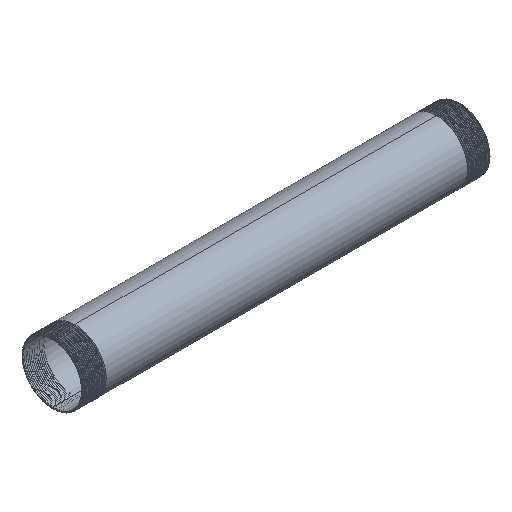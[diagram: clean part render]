
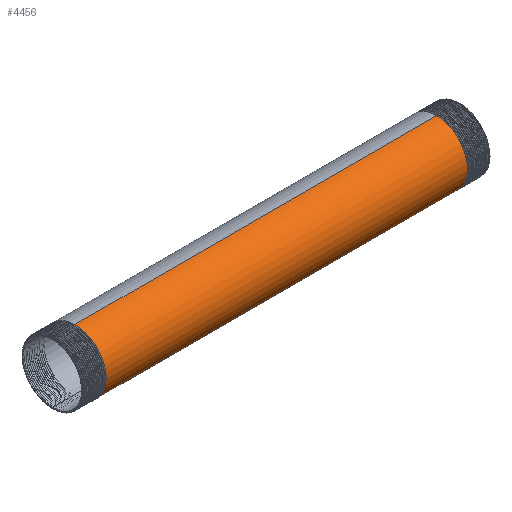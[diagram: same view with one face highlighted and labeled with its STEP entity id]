
A CAD part, isometric view. The second image highlights one B-rep face of the part: STEP entity #4456.
In plain terms, the highlighted cylindrical face has radius 38.05 mm (diameter 76.1 mm), a partial arc.
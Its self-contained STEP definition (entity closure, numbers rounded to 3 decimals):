
#279 = ORIENTED_EDGE ( 'NONE', *, *, #7416, .T. ) ;
#941 = CARTESIAN_POINT ( 'NONE',  ( 222.25, 0., 38.05 ) ) ;
#1050 = CARTESIAN_POINT ( 'NONE',  ( -221.25, 0., -38.05 ) ) ;
#1376 = CARTESIAN_POINT ( 'NONE',  ( -221.25, 0., -38.05 ) ) ;
#1490 = EDGE_LOOP ( 'NONE', ( #9318, #279, #11441, #2651 ) ) ;
#1692 = CARTESIAN_POINT ( 'NONE',  ( 221.45, -22.365, -30.783 ) ) ;
#2060 = CARTESIAN_POINT ( 'NONE',  ( -221.85, -36.188, 11.758 ) ) ;
#2557 = CARTESIAN_POINT ( 'NONE',  ( -149.494, 0., 38.05 ) ) ;
#2630 = CARTESIAN_POINT ( 'NONE',  ( 221.65, -36.188, -11.758 ) ) ;
#2651 = ORIENTED_EDGE ( 'NONE', *, *, #11901, .F. ) ;
#2988 = CARTESIAN_POINT ( 'NONE',  ( -222.25, 0., 38.05 ) ) ;
#3273 = CARTESIAN_POINT ( 'NONE',  ( -221.45, -22.365, -30.783 ) ) ;
#3338 = VECTOR ( 'NONE', #12844, 1000. ) ;
#3483 = LINE ( 'NONE', #2557, #9997 ) ;
#4059 = CARTESIAN_POINT ( 'NONE',  ( -221.55, -32.367, -23.516 ) ) ;
#4456 = ADVANCED_FACE ( 'NONE', ( #12021 ), #9926, .T. ) ;
#4910 = CARTESIAN_POINT ( 'NONE',  ( 221.75, -40.008, 0. ) ) ;
#5164 = AXIS2_PLACEMENT_3D ( 'NONE', #11156, #14184, #13104 ) ;
#5210 = CARTESIAN_POINT ( 'NONE',  ( -221.65, -36.188, -11.758 ) ) ;
#5702 = DIRECTION ( 'NONE',  ( -1., 0., 0. ) ) ;
#5986 = CARTESIAN_POINT ( 'NONE',  ( 221.35, -12.363, -38.05 ) ) ;
#6319 = CARTESIAN_POINT ( 'NONE',  ( -222.25, 0., 38.05 ) ) ;
#6991 = CARTESIAN_POINT ( 'NONE',  ( 221.95, -32.367, 23.516 ) ) ;
#7239 = EDGE_CURVE ( 'NONE', #9646, #10569, #3483, .T. ) ;
#7313 = LINE ( 'NONE', #9531, #3338 ) ;
#7416 = EDGE_CURVE ( 'NONE', #9351, #9646, #10756, .T. ) ;
#8420 = CARTESIAN_POINT ( 'NONE',  ( -222.15, -12.363, 38.05 ) ) ;
#8635 = CARTESIAN_POINT ( 'NONE',  ( -222.05, -22.365, 30.783 ) ) ;
#9134 = CARTESIAN_POINT ( 'NONE',  ( 221.25, 0., -38.05 ) ) ;
#9204 = CARTESIAN_POINT ( 'NONE',  ( 222.15, -12.363, 38.05 ) ) ;
#9271 = CARTESIAN_POINT ( 'NONE',  ( 221.85, -36.188, 11.758 ) ) ;
#9318 = ORIENTED_EDGE ( 'NONE', *, *, #9544, .F. ) ;
#9351 = VERTEX_POINT ( 'NONE', #13153 ) ;
#9531 = CARTESIAN_POINT ( 'NONE',  ( -149.494, 0., -38.05 ) ) ;
#9544 = EDGE_CURVE ( 'NONE', #9351, #12988, #7313, .T. ) ;
#9646 = VERTEX_POINT ( 'NONE', #941 ) ;
#9708 = CARTESIAN_POINT ( 'NONE',  ( -221.75, -40.008, 0. ) ) ;
#9926 = CYLINDRICAL_SURFACE ( 'NONE', #5164, 38.05 ) ;
#9997 = VECTOR ( 'NONE', #5702, 1000. ) ;
#10569 = VERTEX_POINT ( 'NONE', #6319 ) ;
#10756 =( BOUNDED_CURVE ( )  B_SPLINE_CURVE ( 2, ( #9134, #5986, #1692, #12442, #2630, #4910, #9271, #6991, #11367, #9204, #12508 ),
 .UNSPECIFIED., .F., .F. ) 
 B_SPLINE_CURVE_WITH_KNOTS ( ( 3, 2, 2, 2, 2, 3 ),
 ( 0., 0.006, 0.013, 0.019, 0.025, 0.031 ),
 .UNSPECIFIED. ) 
 CURVE ( )  GEOMETRIC_REPRESENTATION_ITEM ( )  RATIONAL_B_SPLINE_CURVE ( ( 1., 0.951, 1., 0.951, 1., 0.951, 1., 0.951, 1., 0.951, 1. ) ) 
 REPRESENTATION_ITEM ( '' )  );
#11156 = CARTESIAN_POINT ( 'NONE',  ( -149.494, 0., 0. ) ) ;
#11367 = CARTESIAN_POINT ( 'NONE',  ( 222.05, -22.365, 30.783 ) ) ;
#11441 = ORIENTED_EDGE ( 'NONE', *, *, #7239, .T. ) ;
#11901 = EDGE_CURVE ( 'NONE', #12988, #10569, #12686, .T. ) ;
#12021 = FACE_OUTER_BOUND ( 'NONE', #1490, .T. ) ;
#12442 = CARTESIAN_POINT ( 'NONE',  ( 221.55, -32.367, -23.516 ) ) ;
#12508 = CARTESIAN_POINT ( 'NONE',  ( 222.25, 0., 38.05 ) ) ;
#12686 =( BOUNDED_CURVE ( )  B_SPLINE_CURVE ( 2, ( #1050, #13965, #3273, #4059, #5210, #9708, #2060, #12954, #8635, #8420, #2988 ),
 .UNSPECIFIED., .F., .F. ) 
 B_SPLINE_CURVE_WITH_KNOTS ( ( 3, 2, 2, 2, 2, 3 ),
 ( 0., 0.006, 0.013, 0.019, 0.025, 0.031 ),
 .UNSPECIFIED. ) 
 CURVE ( )  GEOMETRIC_REPRESENTATION_ITEM ( )  RATIONAL_B_SPLINE_CURVE ( ( 1., 0.951, 1., 0.951, 1., 0.951, 1., 0.951, 1., 0.951, 1. ) ) 
 REPRESENTATION_ITEM ( '' )  );
#12844 = DIRECTION ( 'NONE',  ( -1., 0., 0. ) ) ;
#12954 = CARTESIAN_POINT ( 'NONE',  ( -221.95, -32.367, 23.516 ) ) ;
#12988 = VERTEX_POINT ( 'NONE', #1376 ) ;
#13104 = DIRECTION ( 'NONE',  ( 0., 0., 1. ) ) ;
#13153 = CARTESIAN_POINT ( 'NONE',  ( 221.25, 0., -38.05 ) ) ;
#13965 = CARTESIAN_POINT ( 'NONE',  ( -221.35, -12.363, -38.05 ) ) ;
#14184 = DIRECTION ( 'NONE',  ( -1., 0., 0. ) ) ;
